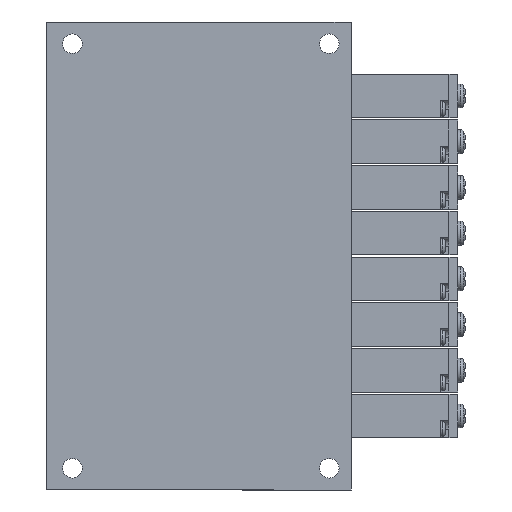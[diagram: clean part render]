
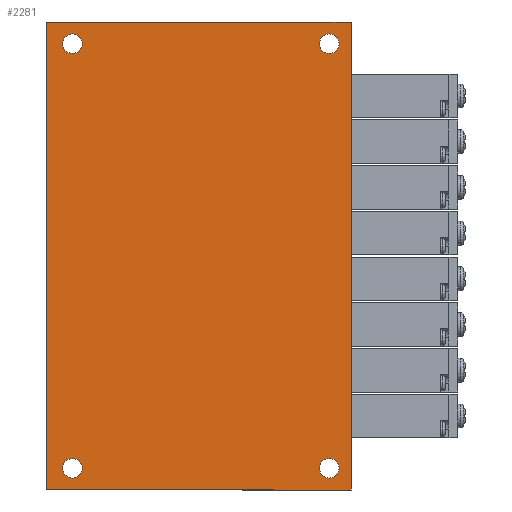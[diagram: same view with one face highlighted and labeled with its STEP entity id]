
A CAD part, front view. The second image highlights one B-rep face of the part: STEP entity #2281.
In plain terms, the highlighted planar face has unit normal (0, -1, 0) as drawn and (0, 0, 1) by its records, which use the part's own axes.
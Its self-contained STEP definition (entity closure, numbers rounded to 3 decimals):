
#2281=ADVANCED_FACE('',(#5033,#5034,#5035,#5036,#5037),#5038,.T.);
#5033=FACE_BOUND('',#8292,.T.);
#5034=FACE_BOUND('',#8293,.T.);
#5035=FACE_BOUND('',#8294,.T.);
#5036=FACE_BOUND('',#8295,.T.);
#5037=FACE_OUTER_BOUND('',#8296,.T.);
#5038=PLANE('',#8297);
#8292=EDGE_LOOP('',(#17685));
#8293=EDGE_LOOP('',(#17686));
#8294=EDGE_LOOP('',(#17687));
#8295=EDGE_LOOP('',(#17688));
#8296=EDGE_LOOP('',(#17689,#17690,#17691,#17692));
#8297=AXIS2_PLACEMENT_3D('',#17693,#17694,#17695);
#17685=ORIENTED_EDGE('',*,*,#23563,.F.);
#17686=ORIENTED_EDGE('',*,*,#23561,.T.);
#17687=ORIENTED_EDGE('',*,*,#23557,.F.);
#17688=ORIENTED_EDGE('',*,*,#23555,.T.);
#17689=ORIENTED_EDGE('',*,*,#23565,.T.);
#17690=ORIENTED_EDGE('',*,*,#23566,.T.);
#17691=ORIENTED_EDGE('',*,*,#23567,.T.);
#17692=ORIENTED_EDGE('',*,*,#23568,.T.);
#17693=CARTESIAN_POINT('',(-53.75,-35.0,25.889));
#17694=DIRECTION('',(0.0,0.0,1.0));
#17695=DIRECTION('',(1.0,0.0,0.0));
#23555=EDGE_CURVE('',#29043,#29043,#29044,.T.);
#23557=EDGE_CURVE('',#29047,#29047,#29048,.T.);
#23561=EDGE_CURVE('',#29055,#29055,#29056,.T.);
#23563=EDGE_CURVE('',#29059,#29059,#29060,.T.);
#23565=EDGE_CURVE('',#29063,#29064,#29065,.T.);
#23566=EDGE_CURVE('',#29064,#29066,#29067,.T.);
#23567=EDGE_CURVE('',#29066,#29068,#29069,.T.);
#23568=EDGE_CURVE('',#29068,#29063,#29070,.T.);
#29043=VERTEX_POINT('',#38198);
#29044=CIRCLE('',#38199,2.25);
#29047=VERTEX_POINT('',#38202);
#29048=CIRCLE('',#38203,2.25);
#29055=VERTEX_POINT('',#38210);
#29056=CIRCLE('',#38211,2.25);
#29059=VERTEX_POINT('',#38214);
#29060=CIRCLE('',#38215,2.25);
#29063=VERTEX_POINT('',#38218);
#29064=VERTEX_POINT('',#38219);
#29065=LINE('',#38220,#38221);
#29066=VERTEX_POINT('',#38222);
#29067=LINE('',#38223,#38224);
#29068=VERTEX_POINT('',#38225);
#29069=LINE('',#38226,#38227);
#29070=LINE('',#38228,#38229);
#38198=CARTESIAN_POINT('',(-51.0,-29.0,25.889));
#38199=AXIS2_PLACEMENT_3D('',#44586,#44587,#44588);
#38202=CARTESIAN_POINT('',(51.0,-29.0,25.889));
#38203=AXIS2_PLACEMENT_3D('',#44592,#44593,#44594);
#38210=CARTESIAN_POINT('',(-51.0,30.0,25.889));
#38211=AXIS2_PLACEMENT_3D('',#44604,#44605,#44606);
#38214=CARTESIAN_POINT('',(51.0,30.0,25.889));
#38215=AXIS2_PLACEMENT_3D('',#44610,#44611,#44612);
#38218=CARTESIAN_POINT('',(-53.75,35.0,25.889));
#38219=CARTESIAN_POINT('',(-53.75,-35.0,25.889));
#38220=CARTESIAN_POINT('',(-53.75,35.0,25.889));
#38221=VECTOR('',#44616,1.0);
#38222=CARTESIAN_POINT('',(53.75,-35.0,25.889));
#38223=CARTESIAN_POINT('',(-53.75,-35.0,25.889));
#38224=VECTOR('',#44617,1.0);
#38225=CARTESIAN_POINT('',(53.75,35.0,25.889));
#38226=CARTESIAN_POINT('',(53.75,-35.0,25.889));
#38227=VECTOR('',#44618,1.0);
#38228=CARTESIAN_POINT('',(53.75,35.0,25.889));
#38229=VECTOR('',#44619,1.0);
#44586=CARTESIAN_POINT('',(-48.75,-29.0,25.889));
#44587=DIRECTION('',(0.0,0.0,-1.0));
#44588=DIRECTION('',(-1.0,0.0,0.0));
#44592=CARTESIAN_POINT('',(48.75,-29.0,25.889));
#44593=DIRECTION('',(0.0,0.0,1.0));
#44594=DIRECTION('',(1.0,0.0,0.0));
#44604=CARTESIAN_POINT('',(-48.75,30.0,25.889));
#44605=DIRECTION('',(0.0,0.0,-1.0));
#44606=DIRECTION('',(-1.0,0.0,0.0));
#44610=CARTESIAN_POINT('',(48.75,30.0,25.889));
#44611=DIRECTION('',(0.0,0.0,1.0));
#44612=DIRECTION('',(1.0,0.0,0.0));
#44616=DIRECTION('',(0.0,-1.0,0.0));
#44617=DIRECTION('',(1.0,0.0,0.0));
#44618=DIRECTION('',(0.0,1.0,0.0));
#44619=DIRECTION('',(-1.0,0.0,0.0));
